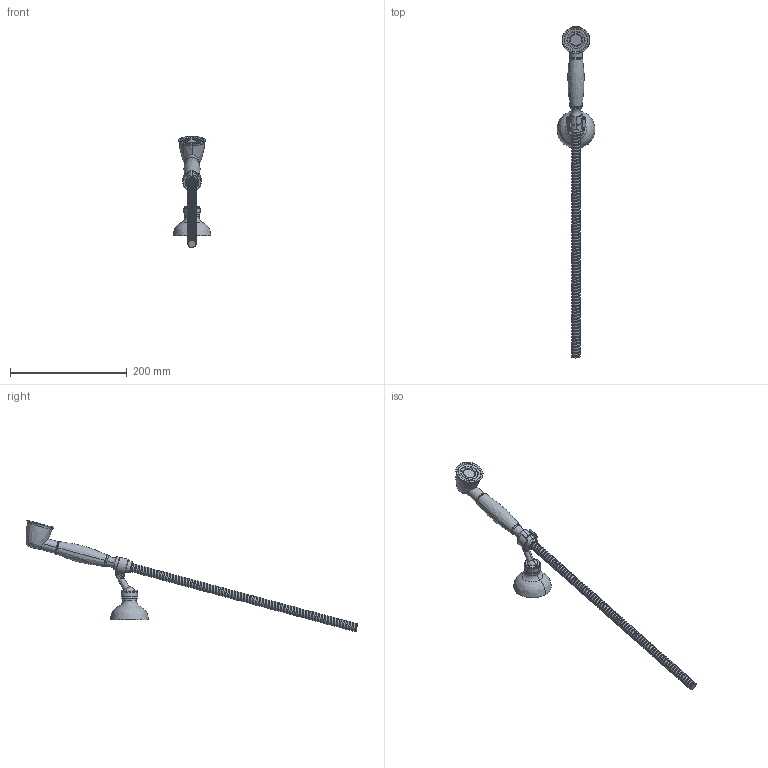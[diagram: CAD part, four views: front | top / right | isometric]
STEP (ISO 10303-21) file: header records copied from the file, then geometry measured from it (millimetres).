
FILE_DESCRIPTION((''),'2;1');
FILE_NAME('DOCCIA_SW0001','2013-08-06T',('ivanv'),(''),'PRO/ENGINEER BY PARAMETRIC TECHNOLOGY CORPORATION, 2012130','PRO/ENGINEER BY PARAMETRIC TECHNOLOGY CORPORATION, 2012130','');
FILE_SCHEMA(('CONFIG_CONTROL_DESIGN'));
Products named in the file (1): DOCCIA_SW0001
Bounding box: 65 x 568.33 x 190.84 mm (x, y, z)
Volume: 199770.4 mm3; surface area: 59641.9 mm2
Topology: 1 solids, 1 shells, 354 faces, 914 edges, 572 vertices
Faces by surface type: cylinder 182, bspline 92, torus 36, plane 28, sphere 10, cone 6
Entity records: 47250 total; most frequent: CARTESIAN_POINT 39681, ORIENTED_EDGE 1824, DIRECTION 1177, EDGE_CURVE 912, VERTEX_POINT 572, AXIS2_PLACEMENT_3D 461, B_SPLINE_CURVE_WITH_KNOTS 459, EDGE_LOOP 368
